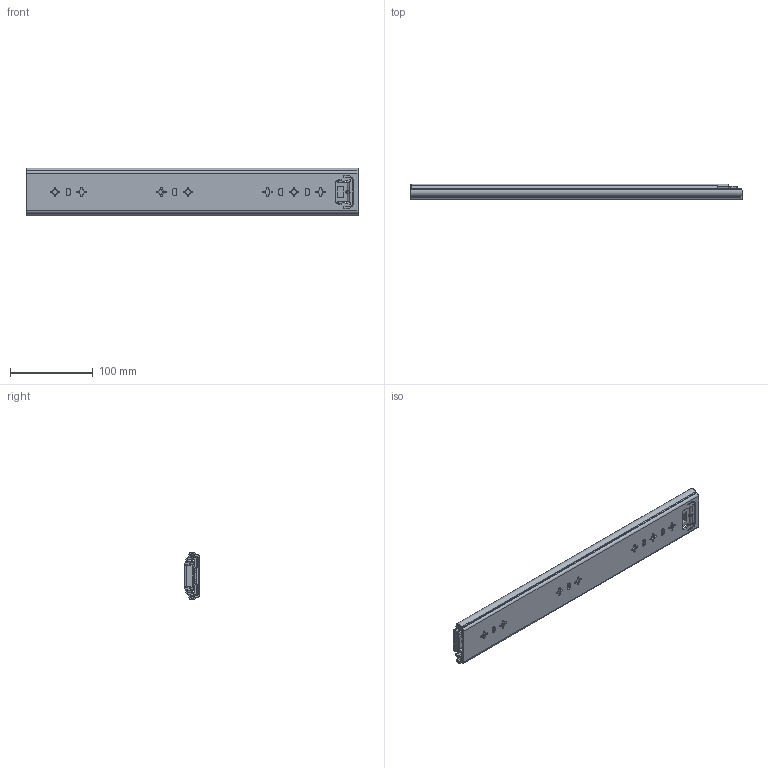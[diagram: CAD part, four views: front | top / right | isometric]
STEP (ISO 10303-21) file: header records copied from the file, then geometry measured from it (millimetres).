
FILE_DESCRIPTION((''),'2;1');
FILE_NAME('1057-02-16_ASM','2023-12-19T',('jishu015'),(''),'PRO/ENGINEER BY PARAMETRIC TECHNOLOGY CORPORATION, 2010280','PRO/ENGINEER BY PARAMETRIC TECHNOLOGY CORPORATION, 2010280','');
FILE_SCHEMA(('CONFIG_CONTROL_DESIGN'));
Length unit declared in the file: millimetre
Products named in the file (14): KP-57-01WEIKE-18____; 1057WEIJIAO____; 1057DAZHUJIA-14GE____; 1057-5-6GANZHU____; 1057DAZHUJIA-14GE_____ASM; KP-57-01ZHONGGUI-18____; 57-ZHONGGUIDINWEIJIAN____; KP-57-01ZHONGGUI-18_____ASM; 1057XIAOZHUJIA____; 1057XIAOZHUJIA-14GE_____ASM; KP-57-01NEIGUI-18____; 45TIEBACHA____; KP-57-01NEIGUI-18_____ASM; 1057-02-16_ASM
Assembly tree (64 placements, depth 3):
  1057-02-16_ASM
    KP-57-01WEIKE-18____
    1057WEIJIAO____
    1057DAZHUJIA-14GE_____ASM
      1057DAZHUJIA-14GE____
      1057-5-6GANZHU____  x24
    KP-57-01ZHONGGUI-18_____ASM
      KP-57-01ZHONGGUI-18____
      57-ZHONGGUIDINWEIJIAN____
    1057XIAOZHUJIA-14GE_____ASM
      1057XIAOZHUJIA____
      1057-5-6GANZHU____  x28
    KP-57-01NEIGUI-18_____ASM
      KP-57-01NEIGUI-18____
      45TIEBACHA____
Bounding box: 400 x 19 x 57.67 mm (x, y, z)
Volume: 171833.9 mm3; surface area: 197582.5 mm2
Topology: 60 solids, 62 shells, 1772 faces, 4949 edges, 3084 vertices
Faces by surface type: plane 848, cylinder 710, sphere 112, cone 62, bspline 34, torus 6
Entity records: 56352 total; most frequent: CARTESIAN_POINT 11701, DIRECTION 9447, ORIENTED_EDGE 9258, EDGE_CURVE 4631, AXIS2_PLACEMENT_3D 3238, VERTEX_POINT 2982, VECTOR 2971, LINE 2971
